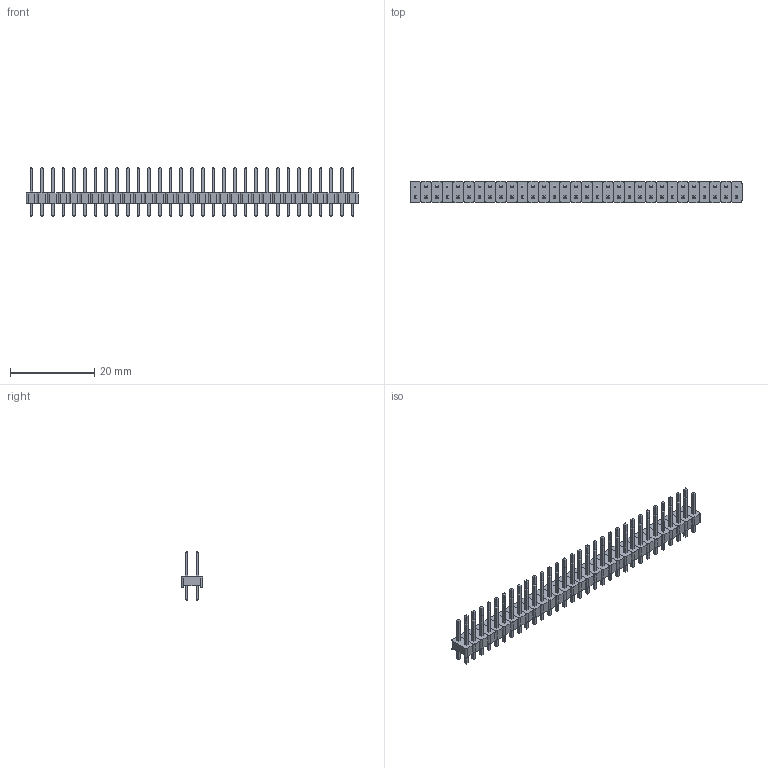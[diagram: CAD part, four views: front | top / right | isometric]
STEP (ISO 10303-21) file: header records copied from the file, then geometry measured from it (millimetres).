
FILE_DESCRIPTION(('FreeCAD Model'),'2;1');
FILE_NAME('Open CASCADE Shape Model','2022-04-06T16:09:32',( 'Engenharia Metaltex'),('Metaltex'), 'Open CASCADE STEP processor 7.5','FreeCAD','Unknown');
FILE_SCHEMA(('AUTOMOTIVE_DESIGN { 1 0 10303 214 1 1 1 1 }'));
Length unit declared in the file: millimetre
Products named in the file (125): BPDC; 31; Base030; Pino062; Pino061; 1; Base; Pino1; Pino2; 2; Base001; Pino003; Pino004; 3; Base002; Pino006; Pino005; 4; Base003; Pino008; Pino007; 5; Base004; Pino009; Pino010; 6; Base005; Pino012; Pino011; 7; Base006; Pino013; Pino014; 8; Base007; Pino015; Pino016; 9; Base008; Pino017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
Assembly tree (124 placements, depth 3):
  BPDC
    31
      Base030
      Pino062
      Pino061
    1
      Base
      Pino1
      Pino2
    2
      Base001
      Pino003
      Pino004
    3
      Base002
      Pino006
      Pino005
    4
      Base003
      Pino008
      Pino007
    5
      Base004
      Pino009
      Pino010
    6
      Base005
      Pino012
      Pino011
    7
      Base006
      Pino013
      Pino014
    8
      Base007
      Pino015
      Pino016
    9
      Base008
      Pino017
      Pino018
    10
      Base009
      Pino019
      Pino020
    11
      Base010
      Pino021
      Pino022
    12
      Base011
      Pino023
      Pino024
    13
      Base012
      Pino025
      Pino026
    14
      Base013
      Pino027
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Bounding box: 78.74 x 5.08 x 11.54 mm (x, y, z)
Volume: 1082.6 mm3; surface area: 3987.6 mm2
Topology: 93 solids, 93 shells, 1550 faces, 3596 edges, 2232 vertices
Faces by surface type: plane 1426, cylinder 124
Entity records: 93019 total; most frequent: CARTESIAN_POINT 15439, DIRECTION 14262, LINE 10292, VECTOR 10292, ORIENTED_EDGE 7192, PCURVE 7192, DEFINITIONAL_REPRESENTATION 7192, EDGE_CURVE 3596
